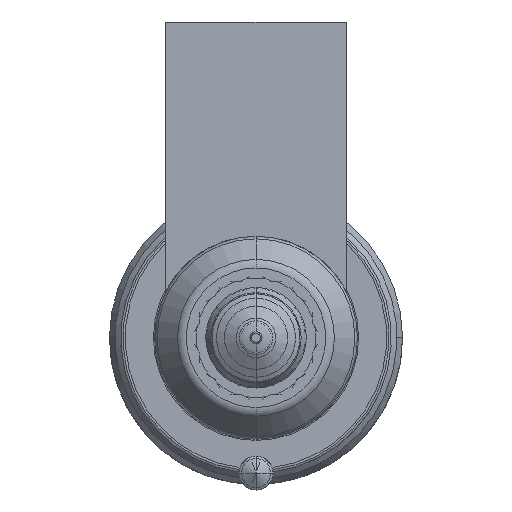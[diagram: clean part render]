
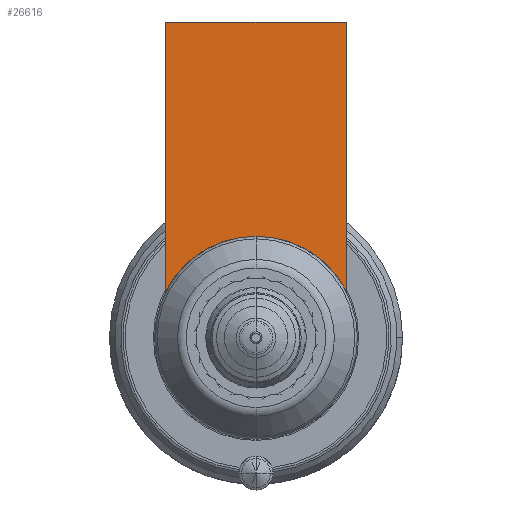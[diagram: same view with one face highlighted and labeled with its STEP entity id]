
A CAD part, front view. The second image highlights one B-rep face of the part: STEP entity #26616.
In plain terms, the highlighted planar face has unit normal (0, -1, 0).
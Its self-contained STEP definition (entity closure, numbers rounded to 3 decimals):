
#25739=DIRECTION('',(1.,0.,0.));
#25740=VECTOR('',#25739,16.);
#25741=CARTESIAN_POINT('',(-8.,-54.,28.));
#25742=LINE('',#25741,#25740);
#25747=CARTESIAN_POINT('',(0.,-54.,0.));
#25748=DIRECTION('',(0.,-1.,0.));
#25749=DIRECTION('',(0.889,0.,0.458));
#25750=AXIS2_PLACEMENT_3D('',#25747,#25748,#25749);
#25755=CARTESIAN_POINT('',(0.,-54.,0.));
#25756=DIRECTION('',(0.,-1.,0.));
#25757=DIRECTION('',(0.,0.,1.));
#25758=AXIS2_PLACEMENT_3D('',#25755,#25756,#25757);
#25784=DIRECTION('',(0.,0.,-1.));
#25785=VECTOR('',#25784,23.877);
#25786=CARTESIAN_POINT('',(-8.,-54.,28.));
#25787=LINE('',#25786,#25785);
#26460=DIRECTION('',(0.,0.,-1.));
#26461=VECTOR('',#26460,23.877);
#26462=CARTESIAN_POINT('',(8.,-54.,28.));
#26463=LINE('',#26462,#26461);
#26513=CARTESIAN_POINT('',(-8.,-54.,28.));
#26514=VERTEX_POINT('',#26513);
#26519=CARTESIAN_POINT('',(8.,-54.,28.));
#26520=VERTEX_POINT('',#26519);
#26523=CARTESIAN_POINT('',(-8.,-54.,4.123));
#26524=VERTEX_POINT('',#26523);
#26527=CARTESIAN_POINT('',(8.,-54.,4.123));
#26528=VERTEX_POINT('',#26527);
#26597=CARTESIAN_POINT('',(0.,-54.,9.));
#26598=VERTEX_POINT('',#26597);
#26599=CARTESIAN_POINT('',(0.,-54.,9.));
#26600=DIRECTION('',(0.,1.,0.));
#26601=DIRECTION('',(0.,0.,-1.));
#26602=AXIS2_PLACEMENT_3D('',#26599,#26600,#26601);
#26603=PLANE('',#26602);
#26605=ORIENTED_EDGE('',*,*,#26604,.F.);
#26607=ORIENTED_EDGE('',*,*,#26606,.T.);
#26609=ORIENTED_EDGE('',*,*,#26608,.T.);
#26611=ORIENTED_EDGE('',*,*,#26610,.T.);
#26613=ORIENTED_EDGE('',*,*,#26612,.T.);
#26614=EDGE_LOOP('',(#26605,#26607,#26609,#26611,#26613));
#26615=FACE_OUTER_BOUND('',#26614,.F.);
#26616=ADVANCED_FACE('',(#26615),#26603,.F.);
#25751=CIRCLE('',#25750,9.);
#25759=CIRCLE('',#25758,9.);
#26604=EDGE_CURVE('',#26514,#26524,#25787,.T.);
#26606=EDGE_CURVE('',#26514,#26520,#25742,.T.);
#26608=EDGE_CURVE('',#26520,#26528,#26463,.T.);
#26610=EDGE_CURVE('',#26528,#26598,#25751,.T.);
#26612=EDGE_CURVE('',#26598,#26524,#25759,.T.);
